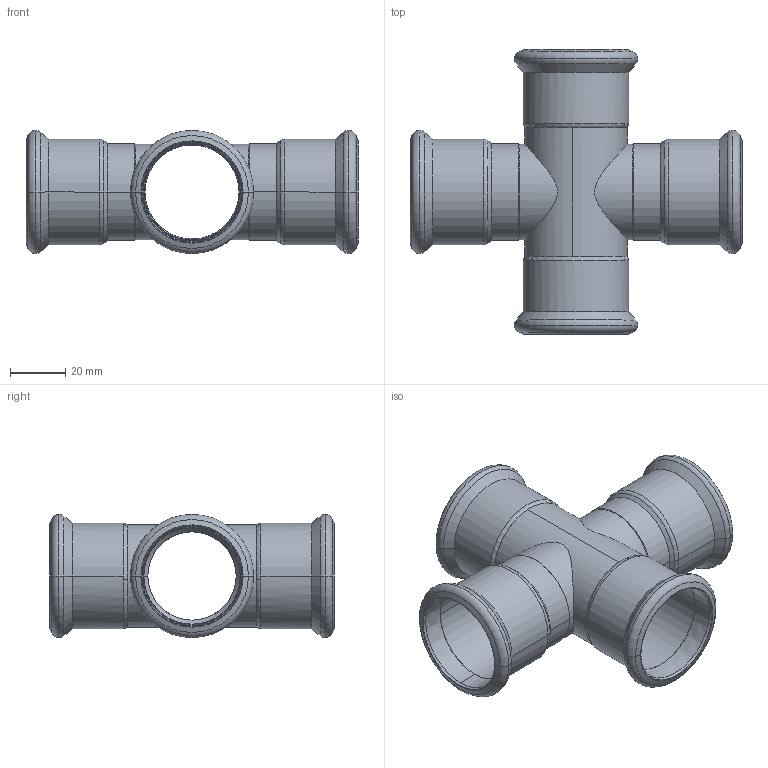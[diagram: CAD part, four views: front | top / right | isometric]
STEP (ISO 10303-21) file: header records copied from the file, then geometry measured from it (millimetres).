
FILE_DESCRIPTION(('CoCreate Modeling STEP Export'),'2;1');
FILE_NAME('C1447 35x35x35x35.stp','2014-11-12T17:09:45',(''),(''),'CoCreate Modeling STEP processor for AP214 (Solid Model)','CoCreate Modeling 17.00A 17-Jun-2010 (C) Parametric Technology GmbH','');
FILE_SCHEMA(('AUTOMOTIVE_DESIGN { 1 0 10303 214 1 1 1 1 }'));
Length unit declared in the file: millimetre
Products named in the file (1): C1447_35x35x35x35
Bounding box: 120 x 103 x 44.55 mm (x, y, z)
Volume: 35934.7 mm3; surface area: 43240.2 mm2
Topology: 1 solids, 1 shells, 144 faces, 330 edges, 186 vertices
Faces by surface type: torus 58, cone 54, cylinder 32
Entity records: 6200 total; most frequent: CARTESIAN_POINT 3505, ORIENTED_EDGE 660, DIRECTION 476, EDGE_CURVE 330, AXIS2_PLACEMENT_3D 195, VERTEX_POINT 186, EDGE_LOOP 148, FACE_OUTER_BOUND 144
